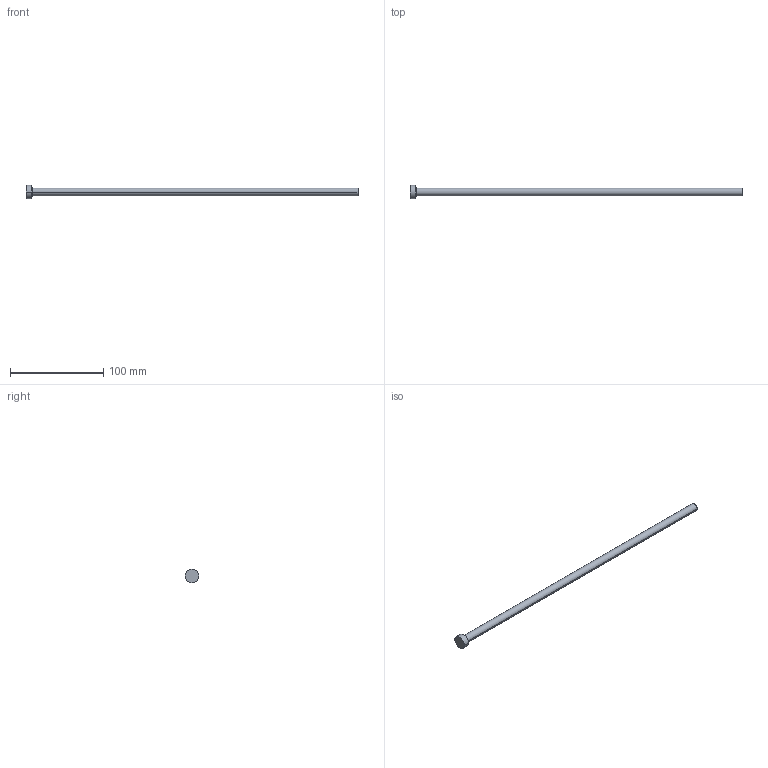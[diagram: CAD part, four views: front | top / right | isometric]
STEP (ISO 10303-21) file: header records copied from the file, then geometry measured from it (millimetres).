
FILE_DESCRIPTION (( 'STEP AP214' ), '1' );
FILE_NAME ('P22-14.STEP', '2020-03-12T09:40:15', ( '' ), ( '' ), 'SwSTEP 2.0', 'SolidWorks 2018', '' );
FILE_SCHEMA (( 'AUTOMOTIVE_DESIGN' ));
Length unit declared in the file: inch
Products named in the file (1): P22-14
Bounding box: 355.6 x 14.29 x 14.29 mm (x, y, z)
Volume: 20039.6 mm3; surface area: 9728.1 mm2
Topology: 1 solids, 1 shells, 13 faces, 24 edges, 14 vertices
Faces by surface type: cone 4, cylinder 4, plane 3, torus 2
Entity records: 366 total; most frequent: DIRECTION 68, CARTESIAN_POINT 52, ORIENTED_EDGE 48, AXIS2_PLACEMENT_3D 30, EDGE_CURVE 24, CIRCLE 16, VERTEX_POINT 14, EDGE_LOOP 14
